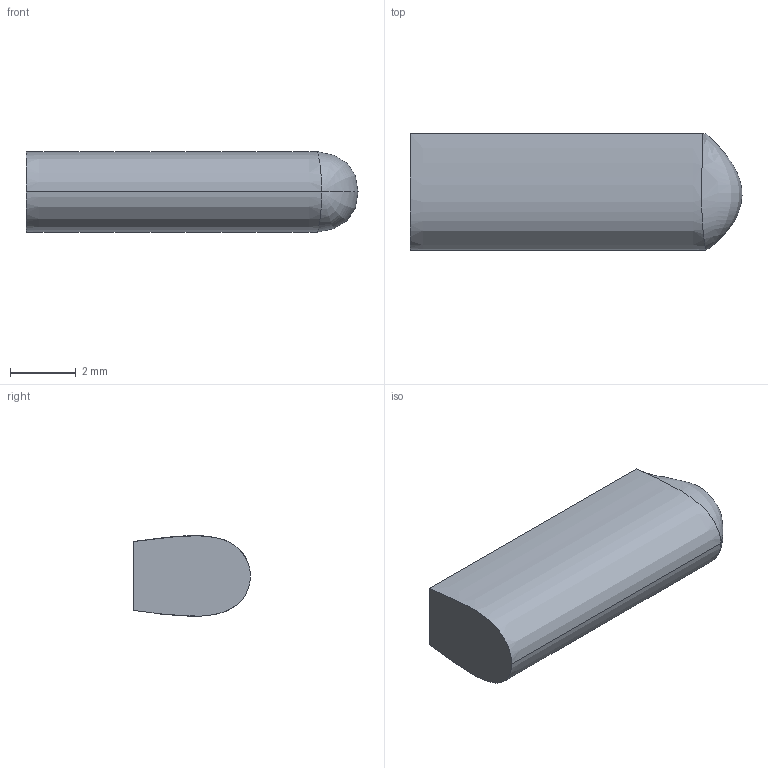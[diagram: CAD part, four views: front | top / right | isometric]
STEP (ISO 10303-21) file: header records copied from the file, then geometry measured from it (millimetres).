
FILE_DESCRIPTION((''),'1');
FILE_NAME('ELEK-ST12-18R','2001-03-30T',('rgoetz'),(''),'PRO/ENGINEER BY PARAMETRIC TECHNOLOGY CORPORATION, 2000350','PRO/ENGINEER BY PARAMETRIC TECHNOLOGY CORPORATION, 2000350','');
FILE_SCHEMA(('CONFIG_CONTROL_DESIGN'));
Length unit declared in the file: millimetre
Products named in the file (1): ELEK-ST12-18R
Bounding box: 10.1 x 3.55 x 2.46 mm (x, y, z)
Volume: 73.9 mm3; surface area: 113.8 mm2
Topology: 1 solids, 1 shells, 6 faces, 13 edges, 7 vertices
Faces by surface type: plane 2, extrusion 2, bspline 2
Entity records: 647 total; most frequent: CARTESIAN_POINT 506, ORIENTED_EDGE 22, EDGE_CURVE 11, DIRECTION 10, B_SPLINE_CURVE_WITH_KNOTS 9, VERTEX_POINT 7, VECTOR 6, EDGE_LOOP 6
